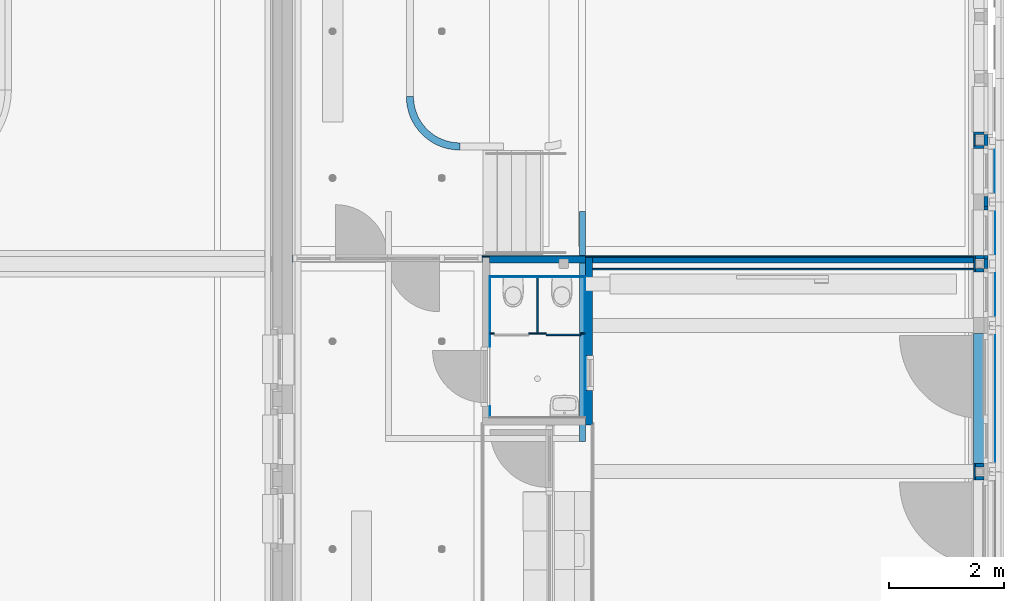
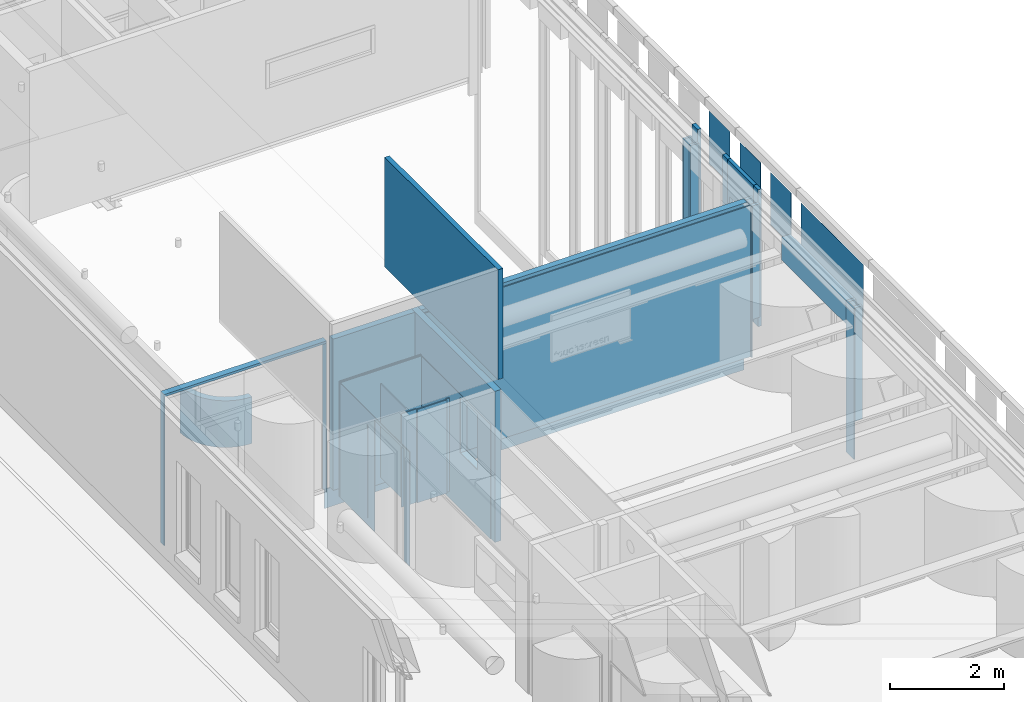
# One storey, part 42 of 128: 35 walls, 5 openings.
"""IFC2X3 building model written with IfcOpenShell, lengths in millimetres."""

from ifc_helpers import new_model, entity, si_unit, converted_unit, derived_unit, direction, frame, frame_2d, origin, origin_2d_with_axis, place, context, subcontext, project, spatial, polyline, circle_curve, parameter, trimmed, segment, composite_curve, rectangle, outline, extrude, material, layer, layer_set, layer_usage, type_object, element, save


model = new_model("IFC2X3")

# Units and contexts
model_context = context("Model", 3, precision=0.01, world=origin(), true_north=direction((6.123031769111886e-17, 1.0)))
body_context = subcontext(model_context, "Body", "Model", "MODEL_VIEW")
ifc_project = project(units=[si_unit("LENGTHUNIT", "METRE", prefix="MILLI"), si_unit("AREAUNIT", "SQUARE_METRE"), si_unit("VOLUMEUNIT", "CUBIC_METRE"), converted_unit("PLANEANGLEUNIT", "DEGREE", entity("IfcRatioMeasure", 0.017453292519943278), si_unit("PLANEANGLEUNIT", "RADIAN"), dimensions=[0, 0, 0, 0, 0, 0, 0]), si_unit("MASSUNIT", "GRAM", prefix="KILO"), derived_unit("MASSDENSITYUNIT", [(si_unit("MASSUNIT", "GRAM", prefix="KILO"), 1), (si_unit("LENGTHUNIT", "METRE"), -3)]), derived_unit("IONCONCENTRATIONUNIT", [(si_unit("MASSUNIT", "GRAM", prefix="KILO"), 1), (si_unit("LENGTHUNIT", "METRE"), -3)]), derived_unit("MOMENTOFINERTIAUNIT", [(si_unit("LENGTHUNIT", "METRE"), 4)]), si_unit("TIMEUNIT", "SECOND"), si_unit("FREQUENCYUNIT", "HERTZ"), si_unit("THERMODYNAMICTEMPERATUREUNIT", "DEGREE_CELSIUS"), derived_unit("THERMALTRANSMITTANCEUNIT", [(si_unit("MASSUNIT", "GRAM", prefix="KILO"), 1), (si_unit("THERMODYNAMICTEMPERATUREUNIT", "KELVIN"), -1), (si_unit("TIMEUNIT", "SECOND"), -3)]), derived_unit("THERMALCONDUCTANCEUNIT", [(si_unit("MASSUNIT", "GRAM", prefix="KILO"), 1), (si_unit("THERMODYNAMICTEMPERATUREUNIT", "KELVIN"), -1), (si_unit("TIMEUNIT", "SECOND"), -3), (si_unit("LENGTHUNIT", "METRE"), 1)]), derived_unit("VOLUMETRICFLOWRATEUNIT", [(si_unit("LENGTHUNIT", "METRE"), 3), (si_unit("TIMEUNIT", "SECOND"), -1)]), derived_unit("MASSFLOWRATEUNIT", [(si_unit("MASSUNIT", "GRAM", prefix="KILO"), 1), (si_unit("TIMEUNIT", "SECOND"), -1)]), derived_unit("ROTATIONALFREQUENCYUNIT", [(si_unit("TIMEUNIT", "SECOND"), -1)]), si_unit("ELECTRICCURRENTUNIT", "AMPERE"), si_unit("ELECTRICVOLTAGEUNIT", "VOLT"), si_unit("POWERUNIT", "WATT"), si_unit("FORCEUNIT", "NEWTON", prefix="KILO"), si_unit("ILLUMINANCEUNIT", "LUX"), si_unit("LUMINOUSFLUXUNIT", "LUMEN"), si_unit("LUMINOUSINTENSITYUNIT", "CANDELA"), derived_unit("USERDEFINED", [(si_unit("MASSUNIT", "GRAM", prefix="KILO"), -1), (si_unit("LENGTHUNIT", "METRE"), -2), (si_unit("TIMEUNIT", "SECOND"), 3), (si_unit("LUMINOUSFLUXUNIT", "LUMEN"), 1)]), derived_unit("USERDEFINED", [(si_unit("MASSUNIT", "GRAM", prefix="KILO"), 1), (si_unit("TIMEUNIT", "SECOND"), -3), (si_unit("LENGTHUNIT", "METRE"), 3), (si_unit("ELECTRICCURRENTUNIT", "AMPERE"), -2)]), derived_unit("SOUNDPOWERUNIT", [(si_unit("MASSUNIT", "GRAM", prefix="KILO"), 1), (si_unit("TIMEUNIT", "SECOND"), -3), (si_unit("LENGTHUNIT", "METRE"), 2)]), derived_unit("SOUNDPRESSUREUNIT", [(si_unit("MASSUNIT", "GRAM", prefix="KILO"), 1), (si_unit("LENGTHUNIT", "METRE"), -1), (si_unit("TIMEUNIT", "SECOND"), -2)]), derived_unit("LINEARVELOCITYUNIT", [(si_unit("LENGTHUNIT", "METRE"), 1), (si_unit("TIMEUNIT", "SECOND"), -1)]), si_unit("PRESSUREUNIT", "PASCAL"), derived_unit("USERDEFINED", [(si_unit("MASSUNIT", "GRAM", prefix="KILO"), 1), (si_unit("LENGTHUNIT", "METRE"), -2), (si_unit("TIMEUNIT", "SECOND"), -2)]), derived_unit("LINEARFORCEUNIT", [(si_unit("MASSUNIT", "GRAM", prefix="KILO"), 1), (si_unit("TIMEUNIT", "SECOND"), -2)]), derived_unit("PLANARFORCEUNIT", [(si_unit("MASSUNIT", "GRAM", prefix="KILO"), 1), (si_unit("LENGTHUNIT", "METRE"), -1), (si_unit("TIMEUNIT", "SECOND"), -2)]), derived_unit("SPECIFICHEATCAPACITYUNIT", [(si_unit("THERMODYNAMICTEMPERATUREUNIT", "KELVIN"), -1), (si_unit("LENGTHUNIT", "METRE"), 2), (si_unit("TIMEUNIT", "SECOND"), -2)]), derived_unit("HEATINGVALUEUNIT", [(si_unit("LENGTHUNIT", "METRE"), 2), (si_unit("TIMEUNIT", "SECOND"), -2)]), derived_unit("VAPORPERMEABILITYUNIT", [(si_unit("LENGTHUNIT", "METRE"), -1), (si_unit("TIMEUNIT", "SECOND"), 1)]), derived_unit("DYNAMICVISCOSITYUNIT", [(si_unit("MASSUNIT", "GRAM", prefix="KILO"), 1), (si_unit("TIMEUNIT", "SECOND"), -1), (si_unit("LENGTHUNIT", "METRE"), -1)]), derived_unit("THERMALEXPANSIONCOEFFICIENTUNIT", [(si_unit("THERMODYNAMICTEMPERATUREUNIT", "KELVIN"), -1)]), derived_unit("MODULUSOFELASTICITYUNIT", [(si_unit("MASSUNIT", "GRAM", prefix="KILO"), 1), (si_unit("LENGTHUNIT", "METRE"), -1), (si_unit("TIMEUNIT", "SECOND"), -2)]), derived_unit("ISOTHERMALMOISTURECAPACITYUNIT", [(si_unit("LENGTHUNIT", "METRE"), 3), (si_unit("MASSUNIT", "GRAM", prefix="KILO"), -1)]), derived_unit("MOISTUREDIFFUSIVITYUNIT", [(si_unit("TIMEUNIT", "SECOND"), -1), (si_unit("LENGTHUNIT", "METRE"), 2)])], contexts=[model_context])

# Site, building, storey
site_placement = place(None, frame((0.0, 300.0, 0.0)))
site = spatial("IfcSite", under=ifc_project, at=site_placement, Name="<Kadastrale nummers>", CompositionType="ELEMENT")
building_placement = place(site_placement, origin())
building = spatial("IfcBuilding", under=site, at=building_placement, CompositionType="ELEMENT")
storey_placement = place(building_placement, frame((0.0, 0.0, 3560.0000331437)))
storey = spatial("IfcBuildingStorey", under=building, at=storey_placement, Name="01 eerste verdieping", CompositionType="ELEMENT", Elevation=3560.0000331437)

# Wall
ifc_material_1 = material(Name="ISR_Metselwerk")
ifc_layer_1 = layer(ifc_material_1, 100.0)
ifc_layer_set_1 = layer_set([ifc_layer_1], Name="Basic Wall:21_DAT_metselwerk_100")
ifc_layer_usage_1 = layer_usage(ifc_layer_set_1, "AXIS2", "POSITIVE", -50.0)
wall_type_1 = type_object("IfcWallType", Name="Basic Wall:21_DAT_metselwerk_100", PredefinedType="STANDARD", material=ifc_layer_set_1)
wall_1_placement = place(storey_placement, frame((41725.0, 27825.0, 3790.0), z_axis=(0.0, 0.0, 1.0), x_axis=(0.0, 1.0, 0.0)))
element("IfcWallStandardCase", 1, at=wall_1_placement, inside=storey, type_object=wall_type_1, material=ifc_layer_usage_1, Name="Basic Wall:21_DAT_metselwerk_100", ObjectType="Basic Wall:21_DAT_metselwerk_100", context=body_context, shape_type="SweptSolid", body=[
    extrude(rectangle(XDim=3980.0000000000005, YDim=99.9999999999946, at=frame_2d((1990.0000000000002, 3.254285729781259e-12), x_axis=(-1.0, 0.0))), origin(), (0.0, 0.0, 1.0), 2349.999964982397),
])

# Wall, opening
ifc_material_2 = material(Name="ISR_Gips")
ifc_layer_2 = layer(ifc_material_2, 1.0)
ifc_material_3 = material(Name="ISR_Binnenwand")
ifc_layer_3 = layer(ifc_material_3, 123.0)
ifc_layer_4 = layer(ifc_material_2, 1.0)
ifc_layer_set_2 = layer_set([ifc_layer_2, ifc_layer_3, ifc_layer_4], Name="Basic Wall:22_DAT_binnenwand_125")
ifc_layer_usage_2 = layer_usage(ifc_layer_set_2, "AXIS2", "NEGATIVE", 62.50000000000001)
wall_type_2 = type_object("IfcWallType", Name="Basic Wall:22_DAT_binnenwand_125", PredefinedType="STANDARD", material=ifc_layer_set_2)
wall_2_placement = place(storey_placement, frame((39990.0, 30987.49999999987, 90.00000187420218), z_axis=(0.0, 0.0, 1.0), x_axis=(-1.0, 0.0, 0.0)))
wall_2 = element("IfcWallStandardCase", 2, at=wall_2_placement, inside=storey, type_object=wall_type_2, material=ifc_layer_usage_2, Name="Basic Wall:22_DAT_binnenwand_125", ObjectType="Basic Wall:22_DAT_binnenwand_125", context=body_context, shape_type="SweptSolid", body=[
    extrude(rectangle(XDim=3289.999999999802, YDim=125.0000000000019, at=frame_2d((1644.999999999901, -8.988365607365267e-13), x_axis=(1.0, 0.0))), origin(), (0.0, 0.0, 1.0), 3239.9999999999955),
])
opening_1_placement = place(wall_2_placement, origin())
element("IfcOpeningElement", 3, at=opening_1_placement, cuts=wall_2, Name="Basic Wall:22_DAT_binnenwand_125", ObjectType="Opening", context=body_context, shape_type="SweptSolid", body=[
    extrude(rectangle(XDim=3189.9999999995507, YDim=3269.9999999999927, at=frame_2d((4.433786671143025e-12, 7.958078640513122e-13), x_axis=(0.0, 1.0))), frame((1640.0, -214.89999999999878, 1595.0), z_axis=(0.0, 1.0, 0.0), x_axis=(-1.0, 0.0, 0.0)), (0.0, 0.0, 1.0), 429.8000000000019),
])

# Wall
wall_3_placement = place(storey_placement, frame((40115.0, 30972.49999999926, 90.00000187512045)))
element("IfcWallStandardCase", 4, at=wall_3_placement, inside=storey, type_object=wall_type_2, material=ifc_layer_usage_2, Name="Basic Wall:22_DAT_binnenwand_125", ObjectType="Basic Wall:22_DAT_binnenwand_125", context=body_context, shape_type="SweptSolid", body=[
    extrude(rectangle(XDim=1659.9999999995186, YDim=124.99999999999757, at=frame_2d((829.9999999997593, 1.9895196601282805e-13), x_axis=(-1.0, 0.0))), origin(), (0.0, 0.0, 1.0), 3240.0000290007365),
])

# Wall, opening
wall_4_placement = place(storey_placement, frame((41837.49999999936, 31035.0, 90.00000187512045), z_axis=(0.0, 0.0, 1.0), x_axis=(0.0, -1.0, 0.0)))
wall_4 = element("IfcWallStandardCase", 5, at=wall_4_placement, inside=storey, type_object=wall_type_2, material=ifc_layer_usage_2, Name="Basic Wall:22_DAT_binnenwand_125", ObjectType="Basic Wall:22_DAT_binnenwand_125", context=body_context, shape_type="SweptSolid", body=[
    extrude(rectangle(XDim=2925.00137672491, YDim=125.00000000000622, at=frame_2d((1462.500688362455, 3.957723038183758e-12), x_axis=(-1.0, 0.0))), origin(), (0.0, 0.0, 1.0), 3240.0000290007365),
])
opening_2_placement = place(wall_4_placement, origin())
element("IfcOpeningElement", 6, at=opening_2_placement, cuts=wall_4, Name="Basic Wall:22_DAT_binnenwand_125", ObjectType="Opening", context=body_context, shape_type="SweptSolid", body=[
    extrude(rectangle(XDim=1190.0000000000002, YDim=600.0000000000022, at=frame_2d((0.0, 0.0), x_axis=(0.0, 1.0))), frame((2025.0013767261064, -214.89999999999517, 1795.0), z_axis=(0.0, 1.0, 0.0), x_axis=(-1.0, 0.0, 0.0)), (0.0, 0.0, 1.0), 429.79999999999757),
])

# Walls
ifc_layer_usage_3 = layer_usage(ifc_layer_set_2, "AXIS2", "POSITIVE", -62.50000000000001)
wall_5_placement = place(storey_placement, frame((41900.0, 30972.49999999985, 90.00000187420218)))
element("IfcWallStandardCase", 7, at=wall_5_placement, inside=storey, type_object=wall_type_2, material=ifc_layer_usage_3, Name="Basic Wall:22_DAT_binnenwand_125", ObjectType="Basic Wall:22_DAT_binnenwand_125", context=body_context, shape_type="SweptSolid", body=[
    extrude(rectangle(XDim=6600.000000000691, YDim=124.99999999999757, at=frame_2d((3300.0000000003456, -2.3803181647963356e-13), x_axis=(-1.0, 0.0))), origin(), (0.0, 0.0, 1.0), 3239.9999999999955),
])
wall_6_placement = place(storey_placement, frame((38737.500000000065, 33795.0, 90.00000187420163), z_axis=(0.0, 0.0, 1.0), x_axis=(0.0, -1.0, 0.0)))
element("IfcWallStandardCase", 8, at=wall_6_placement, inside=storey, type_object=wall_type_2, material=ifc_layer_usage_2, Name="Basic Wall:22_DAT_binnenwand_125", ObjectType="Basic Wall:22_DAT_binnenwand_125", context=body_context, shape_type="SweptSolid", body=[
    extrude(outline(composite_curve([segment(trimmed(circle_curve(frame_2d((0.0, 862.4999999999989), x_axis=(1.0, 0.0)), 800.0), [parameter(269.99999999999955)], [parameter(359.99999999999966)], True, "PARAMETER"), False, "CONTINUOUS"), segment(polyline([(0.0, 62.49999999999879), (0.0, -62.50000000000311)]), True, "CONTINUOUS"), segment(trimmed(circle_curve(frame_2d((0.0, 862.4999999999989), x_axis=(1.0, 0.0)), 925.0000000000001), [parameter(269.99999999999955)], [parameter(359.99999999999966)], True, "PARAMETER"), True, "CONTINUOUS"), segment(polyline([(925.0, 862.4999999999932), (800.0, 862.5000000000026)]), True, "CONTINUOUS")], self_intersect=False)), origin(), (0.0, 0.0, 1.0), 1000.0000000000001),
])
ifc_layer_5 = layer(ifc_material_2, 1.0)
ifc_layer_6 = layer(ifc_material_3, 23.0)
ifc_layer_7 = layer(ifc_material_2, 1.0)
ifc_layer_set_3 = layer_set([ifc_layer_5, ifc_layer_6, ifc_layer_7], Name="Basic Wall:22_DAT_binnenwand_25")
ifc_layer_usage_4 = layer_usage(ifc_layer_set_3, "AXIS2", "NEGATIVE", 12.499999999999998)
wall_type_3 = type_object("IfcWallType", Name="Basic Wall:22_DAT_binnenwand_25", PredefinedType="STANDARD", material=ifc_layer_set_3)
wall_7_placement = place(storey_placement, frame((40115.0, 30692.498623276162, 90.0000018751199)))
element("IfcWallStandardCase", 9, at=wall_7_placement, inside=storey, type_object=wall_type_3, material=ifc_layer_usage_4, Name="Basic Wall:22_DAT_binnenwand_25", ObjectType="Basic Wall:22_DAT_binnenwand_25", context=body_context, shape_type="SweptSolid", body=[
    extrude(rectangle(XDim=1659.9999999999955, YDim=25.00000000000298, at=frame_2d((829.9999999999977, -8.260059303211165e-14), x_axis=(-1.0, 0.0))), origin(), (0.0, 0.0, 1.0), 2470.0000226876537),
])
wall_8_placement = place(storey_placement, frame((40000.0, 31022.499999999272, -320.00000414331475)))
element("IfcWallStandardCase", 10, at=wall_8_placement, inside=storey, type_object=wall_type_3, material=ifc_layer_usage_4, Name="Basic Wall:22_DAT_binnenwand_25", ObjectType="Basic Wall:22_DAT_binnenwand_25", context=body_context, shape_type="SweptSolid", body=[
    extrude(rectangle(XDim=8500.0, YDim=25.00000000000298, at=frame_2d((4250.0, 0.0), x_axis=(-1.0, 0.0))), origin(), (0.0, 0.0, 1.0), 410.00000601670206),
])
ifc_layer_usage_5 = layer_usage(ifc_layer_set_3, "AXIS2", "POSITIVE", -12.499999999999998)
wall_9_placement = place(storey_placement, frame((48512.50000000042, 32945.0, -640.000033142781), z_axis=(0.0, 0.0, 1.0), x_axis=(0.0, 1.0, 0.0)))
element("IfcWallStandardCase", 11, at=wall_9_placement, inside=storey, type_object=wall_type_3, material=ifc_layer_usage_5, Name="Basic Wall:22_DAT_binnenwand_25", ObjectType="Basic Wall:22_DAT_binnenwand_25", context=body_context, shape_type="SweptSolid", body=[
    extrude(rectangle(XDim=190.00000000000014, YDim=24.999999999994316, at=frame_2d((95.00000000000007, 9.796607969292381e-13), x_axis=(-1.0, 0.0))), origin(), (0.0, 0.0, 1.0), 3970.000064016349),
])
for number, where, z_axis, x_axis, name in (
    (12, (48512.49999999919, 27160.0, 90.00000187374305), (0.0, 0.0, 1.0), (0.0, 1.0, 0.0), "Basic Wall:22_DAT_binnenwand_25"),
    (13, (48512.499999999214, 30760.0, 90.00000187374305), (0.0, 0.0, 1.0), (0.0, 1.0, 0.0), "Basic Wall:22_DAT_binnenwand_25"),
):
    element("IfcWallStandardCase", number, at=place(storey_placement, frame(where, z_axis=z_axis, x_axis=x_axis)), inside=storey, type_object=wall_type_3, material=ifc_layer_usage_5, Name=name, ObjectType="Basic Wall:22_DAT_binnenwand_25", context=body_context, shape_type="SweptSolid", body=[
        extrude(rectangle(XDim=279.99999999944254, YDim=24.999999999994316, at=frame_2d((139.99999999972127, 7.194245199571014e-14), x_axis=(-1.0, 0.0))), origin(), (0.0, 0.0, 1.0), 3240.000000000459),
    ])
wall_10_placement = place(storey_placement, frame((41899.9933982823, 30807.499999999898, 90.00000187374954)))
element("IfcWallStandardCase", 14, at=wall_10_placement, inside=storey, type_object=wall_type_3, material=ifc_layer_usage_4, Name="Basic Wall:22_DAT_binnenwand_25", ObjectType="Basic Wall:22_DAT_binnenwand_25", context=body_context, shape_type="SweptSolid", body=[
    extrude(rectangle(XDim=6600.006601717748, YDim=25.000000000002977, at=frame_2d((3300.003300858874, -1.7053025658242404e-13), x_axis=(-1.0, 0.0))), origin(), (0.0, 0.0, 1.0), 3240.0000290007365),
])
ifc_material_4 = material(Name="ISR_Kunststof_grijs")
ifc_layer_8 = layer(ifc_material_4, 25.0)
ifc_layer_set_4 = layer_set([ifc_layer_8], Name="Basic Wall:43_DAT_sanitairewand")
ifc_layer_usage_6 = layer_usage(ifc_layer_set_4, "AXIS2", "NEGATIVE", 12.500000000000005)
wall_type_4 = type_object("IfcWallType", Name="Basic Wall:43_DAT_sanitairewand", PredefinedType="STANDARD", material=ifc_layer_set_4)
wall_11_placement = place(storey_placement, frame((40945.0, 30679.998623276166, 240.00000187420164), z_axis=(0.0, 0.0, 1.0), x_axis=(0.0, -1.0, 0.0)))
element("IfcWallStandardCase", 15, at=wall_11_placement, inside=storey, type_object=wall_type_4, material=ifc_layer_usage_6, Name="Basic Wall:43_DAT_sanitairewand", ObjectType="Basic Wall:43_DAT_sanitairewand", context=body_context, shape_type="SweptSolid", body=[
    extrude(rectangle(XDim=975.0000000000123, YDim=24.999999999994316, at=frame_2d((487.50000000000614, 8.65085780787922e-13), x_axis=(-1.0, 0.0))), origin(), (0.0, 0.0, 1.0), 2000.0000000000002),
])
wall_12_placement = place(storey_placement, frame((41095.0, 29667.49862327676, 240.00000187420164)))
element("IfcWallStandardCase", 16, at=wall_12_placement, inside=storey, type_object=wall_type_4, material=ifc_layer_usage_6, Name="Basic Wall:43_DAT_sanitairewand", ObjectType="Basic Wall:43_DAT_sanitairewand", context=body_context, shape_type="SweptSolid", body=[
    extrude(rectangle(XDim=600.0000000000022, YDim=25.000000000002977, at=frame_2d((300.0000000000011, 4.121147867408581e-13), x_axis=(-1.0, 0.0))), origin(), (0.0, 0.0, 1.0), 2000.0000000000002),
])
wall_13_placement = place(storey_placement, frame((40795.0, 29692.498623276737, 240.00000187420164)))
element("IfcWallStandardCase", 17, at=wall_13_placement, inside=storey, type_object=wall_type_4, material=ifc_layer_usage_6, Name="Basic Wall:43_DAT_sanitairewand", ObjectType="Basic Wall:43_DAT_sanitairewand", context=body_context, shape_type="SweptSolid", body=[
    extrude(rectangle(XDim=300.00000000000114, YDim=25.00000000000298, at=frame_2d((150.00000000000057, -8.766321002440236e-13), x_axis=(-1.0, 0.0))), origin(), (0.0, 0.0, 1.0), 2000.0000000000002),
])
wall_14_placement = place(storey_placement, frame((41695.0, 29692.49862327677, 240.00000187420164)))
element("IfcWallStandardCase", 18, at=wall_14_placement, inside=storey, type_object=wall_type_4, material=ifc_layer_usage_6, Name="Basic Wall:43_DAT_sanitairewand", ObjectType="Basic Wall:43_DAT_sanitairewand", context=body_context, shape_type="SweptSolid", body=[
    extrude(rectangle(XDim=79.99999999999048, YDim=25.00000000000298, at=frame_2d((39.99999999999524, 0.0), x_axis=(-1.0, 0.0))), origin(), (0.0, 0.0, 1.0), 2000.0000000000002),
])
wall_15_placement = place(storey_placement, frame((40115.0, 29692.498623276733, 240.00000187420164)))
element("IfcWallStandardCase", 19, at=wall_15_placement, inside=storey, type_object=wall_type_4, material=ifc_layer_usage_6, Name="Basic Wall:43_DAT_sanitairewand", ObjectType="Basic Wall:43_DAT_sanitairewand", context=body_context, shape_type="SweptSolid", body=[
    extrude(rectangle(XDim=79.9999999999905, YDim=25.00000000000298, at=frame_2d((39.99999999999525, 3.4372504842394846e-13), x_axis=(-1.0, 0.0))), origin(), (0.0, 0.0, 1.0), 2000.0000000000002),
])
ifc_material_5 = material(Name="STAAL_RAL 7006")
ifc_layer_9 = layer(ifc_material_5, 2.0)
ifc_layer_set_5 = layer_set([ifc_layer_9], Name="Basic Wall:21_DAT_zetwerk_2")
ifc_layer_usage_7 = layer_usage(ifc_layer_set_5, "AXIS2", "NEGATIVE", 1.000000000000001)
wall_type_5 = type_object("IfcWallType", Name="Basic Wall:21_DAT_zetwerk_2", PredefinedType="STANDARD", material=ifc_layer_set_5)
wall_16_placement = place(storey_placement, frame((48871.0, 29662.0, 2829.9999668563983), z_axis=(0.0, 0.0, 1.0), x_axis=(0.0, -1.0, 0.0)))
element("IfcWallStandardCase", 20, at=wall_16_placement, inside=storey, type_object=wall_type_5, material=ifc_layer_usage_7, Name="Basic Wall:21_DAT_zetwerk_2", ObjectType="Basic Wall:21_DAT_zetwerk_2", context=body_context, shape_type="SweptSolid", body=[
    extrude(rectangle(XDim=2194.0000000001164, YDim=1.9999999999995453, at=frame_2d((1097.0000000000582, 1.3533618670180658e-12), x_axis=(-1.0, 0.0))), origin(), (0.0, 0.0, 1.0), 1120.0000000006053),
])
for number, where, z_axis, x_axis, name in (
    (21, (48871.0, 31802.0, 2829.9999668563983), (0.0, 0.0, 1.0), (0.0, -1.0, 0.0), "Basic Wall:21_DAT_zetwerk_2"),
    (22, (48871.0, 30732.0, 2829.9999668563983), (0.0, 0.0, 1.0), (0.0, -1.0, 0.0), "Basic Wall:21_DAT_zetwerk_2"),
):
    element("IfcWallStandardCase", number, at=place(storey_placement, frame(where, z_axis=z_axis, x_axis=x_axis)), inside=storey, type_object=wall_type_5, material=ifc_layer_usage_7, Name=name, ObjectType="Basic Wall:21_DAT_zetwerk_2", context=body_context, shape_type="SweptSolid", body=[
        extrude(rectangle(XDim=733.9999999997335, YDim=1.9999999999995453, at=frame_2d((366.99999999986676, 1.0186296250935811e-12), x_axis=(-1.0, 0.0))), origin(), (0.0, 0.0, 1.0), 1120.0000000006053),
    ])
wall_17_placement = place(storey_placement, frame((48866.0, 32872.0, 2839.9999668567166), z_axis=(0.0, 0.0, 1.0), x_axis=(0.0, -1.0, 0.0)))
element("IfcWallStandardCase", 23, at=wall_17_placement, inside=storey, type_object=wall_type_5, material=ifc_layer_usage_7, Name="Basic Wall:21_DAT_zetwerk_2", ObjectType="Basic Wall:21_DAT_zetwerk_2", context=body_context, shape_type="SweptSolid", body=[
    extrude(rectangle(XDim=733.9999999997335, YDim=1.9999999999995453, at=frame_2d((366.99999999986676, 1.0186296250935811e-12), x_axis=(-1.0, 0.0))), origin(), (0.0, 0.0, 1.0), 1125.0000000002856),
])
ifc_layer_10 = layer(ifc_material_2, 12.5)
ifc_layer_11 = layer(ifc_material_2, 12.5)
ifc_material_6 = material(Name="ISR_Dak_isolatie(198)")
ifc_layer_12 = layer(ifc_material_6, 140.0)
ifc_material_7 = material(Name="ISR_Multiplex")
ifc_layer_13 = layer(ifc_material_7, 10.0)
ifc_layer_set_6 = layer_set([ifc_layer_10, ifc_layer_11, ifc_layer_12, ifc_layer_13], Name="Basic Wall:21_DAT_Hekwerk 175")
ifc_layer_usage_8 = layer_usage(ifc_layer_set_6, "AXIS2", "NEGATIVE", 87.5)
wall_type_6 = type_object("IfcWallType", Name="Basic Wall:21_DAT_Hekwerk 175", PredefinedType="STANDARD", material=ifc_layer_set_6)
wall_18_placement = place(storey_placement, frame((48587.50000000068, 33135.0, -640.000033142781), z_axis=(0.0, 0.0, 1.0), x_axis=(0.0, 1.0, 0.0)))
element("IfcWallStandardCase", 24, at=wall_18_placement, inside=storey, type_object=wall_type_6, material=ifc_layer_usage_8, Name="Basic Wall:21_DAT_Hekwerk 175", ObjectType="Basic Wall:21_DAT_Hekwerk 175", context=body_context, shape_type="SweptSolid", body=[
    extrude(rectangle(XDim=44.999999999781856, YDim=174.99999999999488, at=frame_2d((22.499999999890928, -2.1813661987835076e-12), x_axis=(-1.0, 0.0))), origin(), (0.0, 0.0, 1.0), 3970.000064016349),
])
ifc_layer_usage_9 = layer_usage(ifc_layer_set_6, "AXIS2", "POSITIVE", -87.5)
wall_19_placement = place(storey_placement, frame((48587.500000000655, 32945.0, 900.0000018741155), z_axis=(0.0, 0.0, 1.0), x_axis=(0.0, -1.0, 0.0)))
element("IfcWallStandardCase", 25, at=wall_19_placement, inside=storey, type_object=wall_type_6, material=ifc_layer_usage_9, Name="Basic Wall:21_DAT_Hekwerk 175", ObjectType="Basic Wall:21_DAT_Hekwerk 175", context=body_context, shape_type="SweptSolid", body=[
    extrude(rectangle(XDim=44.99999999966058, YDim=174.99999999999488, at=frame_2d((22.49999999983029, 2.4229507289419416e-12), x_axis=(-1.0, 0.0))), origin(), (0.0, 0.0, 1.0), 2430.0000289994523),
])
wall_20_placement = place(storey_placement, frame((48587.500000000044, 29690.0, 2830.0), z_axis=(0.0, 0.0, 1.0), x_axis=(0.0, -1.0, 0.0)))
element("IfcWallStandardCase", 26, at=wall_20_placement, inside=storey, type_object=wall_type_6, material=ifc_layer_usage_9, Name="Basic Wall:21_DAT_Hekwerk 175", ObjectType="Basic Wall:21_DAT_Hekwerk 175", context=body_context, shape_type="SweptSolid", body=[
    extrude(rectangle(XDim=2249.999999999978, YDim=174.99999999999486, at=frame_2d((1124.999999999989, 0.0), x_axis=(-1.0, 0.0))), origin(), (0.0, 0.0, 1.0), 500.00003087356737),
])
ifc_material_8 = material(Name="ISR_Isolatie")
ifc_layer_14 = layer(ifc_material_8, 70.0)
ifc_layer_set_7 = layer_set([ifc_layer_14], Name="Basic Wall:21_DAT_isolatie hard_74")
ifc_layer_usage_10 = layer_usage(ifc_layer_set_7, "AXIS2", "NEGATIVE", 35.0)
wall_type_7 = type_object("IfcWallType", Name="Basic Wall:21_DAT_isolatie hard_74", PredefinedType="STANDARD", material=ifc_layer_set_7)
wall_21_placement = place(storey_placement, frame((48710.0, 33135.0, 652.5000018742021), z_axis=(0.0, 0.0, 1.0), x_axis=(0.0, -1.0, 0.0)))
element("IfcWallStandardCase", 27, at=wall_21_placement, inside=storey, type_object=wall_type_7, material=ifc_layer_usage_10, Name="Basic Wall:21_DAT_isolatie hard_74", ObjectType="Basic Wall:21_DAT_isolatie hard_74", context=body_context, shape_type="SweptSolid", body=[
    extrude(rectangle(XDim=190.0000000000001, YDim=70.00000000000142, at=frame_2d((95.00000000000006, 1.6697754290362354e-13), x_axis=(-1.0, 0.0))), origin(), (0.0, 0.0, 1.0), 2937.4999999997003),
])
wall_22_placement = place(storey_placement, frame((48710.0, 32065.0, 652.5000018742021), z_axis=(0.0, 0.0, 1.0), x_axis=(0.0, -1.0, 0.0)))
element("IfcWallStandardCase", 28, at=wall_22_placement, inside=storey, type_object=wall_type_7, material=ifc_layer_usage_10, Name="Basic Wall:21_DAT_isolatie hard_74", ObjectType="Basic Wall:21_DAT_isolatie hard_74", context=body_context, shape_type="SweptSolid", body=[
    extrude(rectangle(XDim=170.0000000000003, YDim=70.00000000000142, at=frame_2d((85.00000000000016, 1.4921397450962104e-13), x_axis=(-1.0, 0.0))), origin(), (0.0, 0.0, 1.0), 2937.4999999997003),
])

# Wall, opening
wall_23_placement = place(storey_placement, frame((48710.0, 31895.0, 652.5000018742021), z_axis=(0.0, 0.0, 1.0), x_axis=(0.0, -1.0, 0.0)))
wall_23 = element("IfcWallStandardCase", 29, at=wall_23_placement, inside=storey, type_object=wall_type_7, material=ifc_layer_usage_10, Name="Basic Wall:21_DAT_isolatie hard_74", ObjectType="Basic Wall:21_DAT_isolatie hard_74", context=body_context, shape_type="SweptSolid", body=[
    extrude(rectangle(XDim=914.9999999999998, YDim=70.00000000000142, at=frame_2d((457.4999999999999, 7.887024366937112e-13), x_axis=(-1.0, 0.0))), origin(), (0.0, 0.0, 1.0), 2937.4999999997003),
])
opening_3_placement = place(wall_23_placement, origin())
element("IfcOpeningElement", 30, at=opening_3_placement, cuts=wall_23, Name="Basic Wall:21_DAT_isolatie hard_74", ObjectType="Opening", context=body_context, shape_type="SweptSolid", body=[
    extrude(rectangle(XDim=1929.9999649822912, YDim=789.999999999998, at=frame_2d((2.1600499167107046e-12, 0.0), x_axis=(0.0, 1.0))), frame((460.0, -187.4000000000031, 1212.499982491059), z_axis=(0.0, 1.0, 0.0), x_axis=(-1.0, 0.0, 0.0)), (0.0, 0.0, 1.0), 374.80000000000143),
])

# Wall
wall_24_placement = place(storey_placement, frame((48710.0, 30980.0, 652.5000018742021), z_axis=(0.0, 0.0, 1.0), x_axis=(0.0, -1.0, 0.0)))
element("IfcWallStandardCase", 31, at=wall_24_placement, inside=storey, type_object=wall_type_7, material=ifc_layer_usage_10, Name="Basic Wall:21_DAT_isolatie hard_74", ObjectType="Basic Wall:21_DAT_isolatie hard_74", context=body_context, shape_type="SweptSolid", body=[
    extrude(rectangle(XDim=159.99999999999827, YDim=70.00000000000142, at=frame_2d((79.99999999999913, 1.3855583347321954e-13), x_axis=(-1.0, 0.0))), origin(), (0.0, 0.0, 1.0), 2937.4999999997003),
])

# Wall, opening
ifc_material_9 = material(Name="ISR_Tegels_grijs_150x150")
ifc_layer_15 = layer(ifc_material_9, 10.0)
ifc_layer_set_8 = layer_set([ifc_layer_15], Name="Basic Wall:43_DAT_Wandtegelwerk")
ifc_layer_usage_11 = layer_usage(ifc_layer_set_8, "AXIS2", "POSITIVE", -5.0)
wall_type_8 = type_object("IfcWallType", Name="Basic Wall:43_DAT_Wandtegelwerk", PredefinedType="STANDARD", material=ifc_layer_set_8)
wall_25_placement = place(storey_placement, frame((40120.0, 30669.99862327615, 90.00000187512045), z_axis=(0.0, 0.0, 1.0), x_axis=(0.0, -1.0, 0.0)))
wall_25 = element("IfcWallStandardCase", 32, at=wall_25_placement, inside=storey, type_object=wall_type_8, material=ifc_layer_usage_11, Name="Basic Wall:43_DAT_Wandtegelwerk", ObjectType="Basic Wall:43_DAT_Wandtegelwerk", context=body_context, shape_type="SweptSolid", body=[
    extrude(rectangle(XDim=2435.0000000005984, YDim=9.999999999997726, at=frame_2d((1217.5000000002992, 0.0), x_axis=(1.0, 0.0))), origin(), (0.0, 0.0, 1.0), 2450.0000226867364),
])
opening_4_placement = place(wall_25_placement, origin())
element("IfcOpeningElement", 33, at=opening_4_placement, cuts=wall_25, Name="Basic Wall:43_DAT_Wandtegelwerk", ObjectType="Opening", context=body_context, shape_type="SweptSolid", body=[
    extrude(rectangle(XDim=2390.0000000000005, YDim=1034.0000000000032, at=frame_2d((2.1600499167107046e-12, 0.0), x_axis=(0.0, 1.0))), frame((1724.001376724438, -157.39999999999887, 1195.0), z_axis=(0.0, 1.0, 0.0), x_axis=(-1.0, 0.0, 0.0)), (0.0, 0.0, 1.0), 314.79999999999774),
])

ifc_layer_usage_12 = layer_usage(ifc_layer_set_8, "AXIS2", "NEGATIVE", 5.0)
wall_26_placement = place(storey_placement, frame((41770.0, 28244.998623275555, 90.00000187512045), z_axis=(0.0, 0.0, 1.0), x_axis=(0.0, 1.0, 0.0)))
wall_26 = element("IfcWallStandardCase", 34, at=wall_26_placement, inside=storey, type_object=wall_type_8, material=ifc_layer_usage_12, Name="Basic Wall:43_DAT_Wandtegelwerk", ObjectType="Basic Wall:43_DAT_Wandtegelwerk", context=body_context, shape_type="SweptSolid", body=[
    extrude(rectangle(XDim=2435.0000000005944, YDim=9.999999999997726, at=frame_2d((1217.5000000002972, 0.0), x_axis=(-1.0, 0.0))), origin(), (0.0, 0.0, 1.0), 2450.0000226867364),
])
opening_5_placement = place(wall_26_placement, origin())
element("IfcOpeningElement", 35, at=opening_5_placement, cuts=wall_26, Name="Basic Wall:43_DAT_Wandtegelwerk", ObjectType="Opening", context=body_context, shape_type="SweptSolid", body=[
    extrude(rectangle(XDim=1190.0000000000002, YDim=600.0000000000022, at=origin_2d_with_axis()), frame((765.0, -157.39999999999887, 1795.0), z_axis=(0.0, 1.0, 0.0), x_axis=(0.0, 0.0, 1.0)), (0.0, 0.0, 1.0), 314.79999999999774),
])

# Walls
wall_27_placement = place(storey_placement, frame((41765.0, 30674.998623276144, 90.00000187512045), z_axis=(0.0, 0.0, 1.0), x_axis=(-1.0, 0.0, 0.0)))
element("IfcWallStandardCase", 36, at=wall_27_placement, inside=storey, type_object=wall_type_8, material=ifc_layer_usage_12, Name="Basic Wall:43_DAT_Wandtegelwerk", ObjectType="Basic Wall:43_DAT_Wandtegelwerk", context=body_context, shape_type="SweptSolid", body=[
    extrude(rectangle(XDim=1649.9999999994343, YDim=9.999999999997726, at=frame_2d((824.9999999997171, 1.247890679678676e-13), x_axis=(-1.0, 0.0))), origin(), (0.0, 0.0, 1.0), 2450.0000226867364),
])
ifc_layer_16 = layer(ifc_material_6, 140.0)
ifc_layer_17 = layer(ifc_material_7, 10.0)
ifc_layer_set_9 = layer_set([ifc_layer_16, ifc_layer_17], Name="Basic Wall:21_DAT_Hekwerk 150")
ifc_layer_usage_13 = layer_usage(ifc_layer_set_9, "AXIS2", "NEGATIVE", 75.0)
wall_type_9 = type_object("IfcWallType", Name="Basic Wall:21_DAT_Hekwerk 150", PredefinedType="STANDARD", material=ifc_layer_set_9)
wall_28_placement = place(storey_placement, frame((48600.0, 27380.0, 900.0000018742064), z_axis=(0.0, 0.0, 1.0), x_axis=(0.0, 1.0, 0.0)))
element("IfcWallStandardCase", 37, at=wall_28_placement, inside=storey, type_object=wall_type_9, material=ifc_layer_usage_13, Name="Basic Wall:21_DAT_Hekwerk 150", ObjectType="Basic Wall:21_DAT_Hekwerk 150", context=body_context, shape_type="SweptSolid", body=[
    extrude(rectangle(XDim=60.00000000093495, YDim=150.00000000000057, at=frame_2d((30.000000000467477, -1.8687273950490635e-12), x_axis=(-1.0, 0.0))), origin(), (0.0, 0.0, 1.0), 2429.9999999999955),
])
ifc_layer_usage_14 = layer_usage(ifc_layer_set_9, "AXIS2", "POSITIVE", -75.0)
wall_29_placement = place(storey_placement, frame((48600.0, 27220.0, 900.0000018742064), z_axis=(0.0, 0.0, 1.0), x_axis=(0.0, -1.0, 0.0)))
element("IfcWallStandardCase", 38, at=wall_29_placement, inside=storey, type_object=wall_type_9, material=ifc_layer_usage_14, Name="Basic Wall:21_DAT_Hekwerk 150", ObjectType="Basic Wall:21_DAT_Hekwerk 150", context=body_context, shape_type="SweptSolid", body=[
    extrude(rectangle(XDim=59.99999999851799, YDim=150.00000000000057, at=frame_2d((29.999999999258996, 2.8279600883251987e-12), x_axis=(-1.0, 0.0))), origin(), (0.0, 0.0, 1.0), 2429.9999999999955),
])
wall_30_placement = place(storey_placement, frame((48600.0, 30980.0, 900.0000018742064), z_axis=(0.0, 0.0, 1.0), x_axis=(0.0, 1.0, 0.0)))
element("IfcWallStandardCase", 39, at=wall_30_placement, inside=storey, type_object=wall_type_9, material=ifc_layer_usage_13, Name="Basic Wall:21_DAT_Hekwerk 150", ObjectType="Basic Wall:21_DAT_Hekwerk 150", context=body_context, shape_type="SweptSolid", body=[
    extrude(rectangle(XDim=60.00000000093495, YDim=150.00000000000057, at=frame_2d((30.000000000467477, -1.8687273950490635e-12), x_axis=(-1.0, 0.0))), origin(), (0.0, 0.0, 1.0), 2429.9999999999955),
])
wall_31_placement = place(storey_placement, frame((48600.0, 30820.0, 900.0000018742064), z_axis=(0.0, 0.0, 1.0), x_axis=(0.0, -1.0, 0.0)))
element("IfcWallStandardCase", 40, at=wall_31_placement, inside=storey, type_object=wall_type_9, material=ifc_layer_usage_14, Name="Basic Wall:21_DAT_Hekwerk 150", ObjectType="Basic Wall:21_DAT_Hekwerk 150", context=body_context, shape_type="SweptSolid", body=[
    extrude(rectangle(XDim=59.99999999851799, YDim=150.00000000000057, at=frame_2d((29.999999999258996, 2.8279600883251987e-12), x_axis=(-1.0, 0.0))), origin(), (0.0, 0.0, 1.0), 2429.9999999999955),
])

save(model, "model.ifc")
